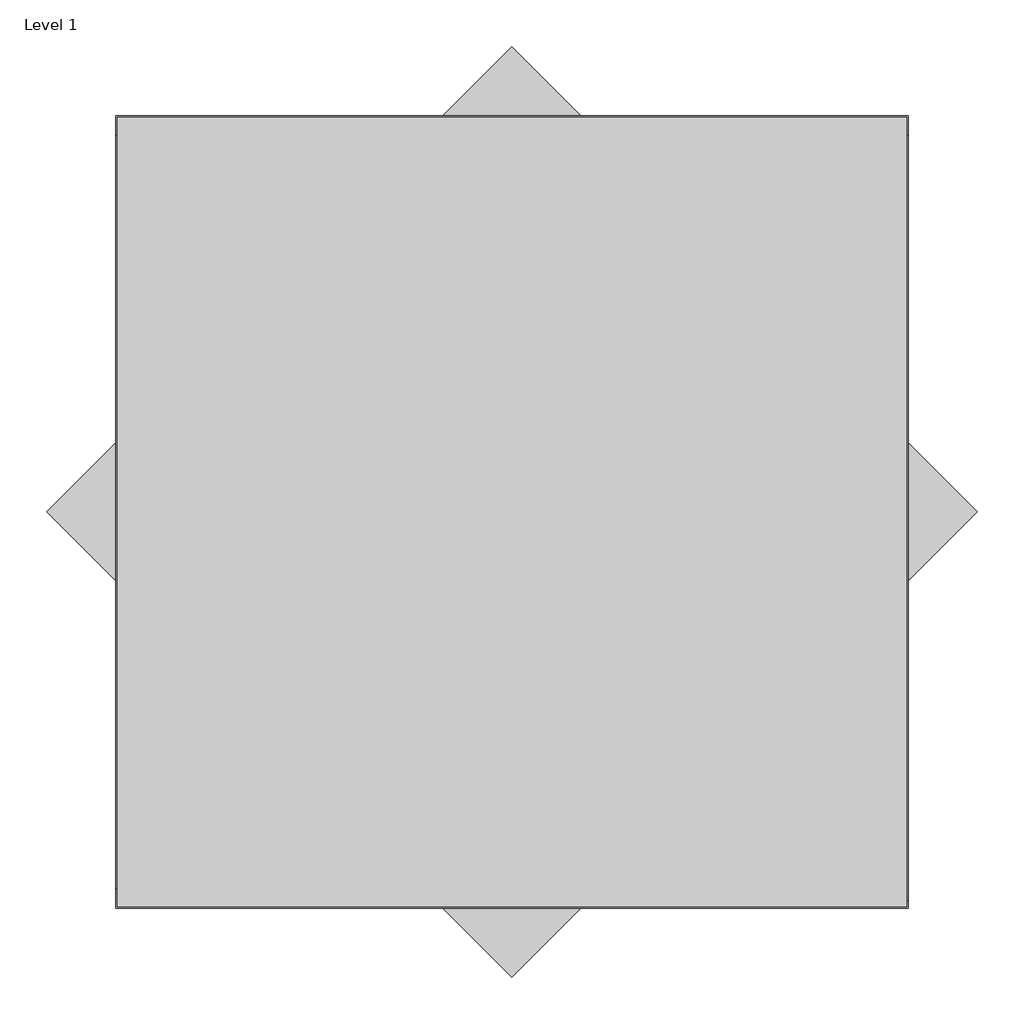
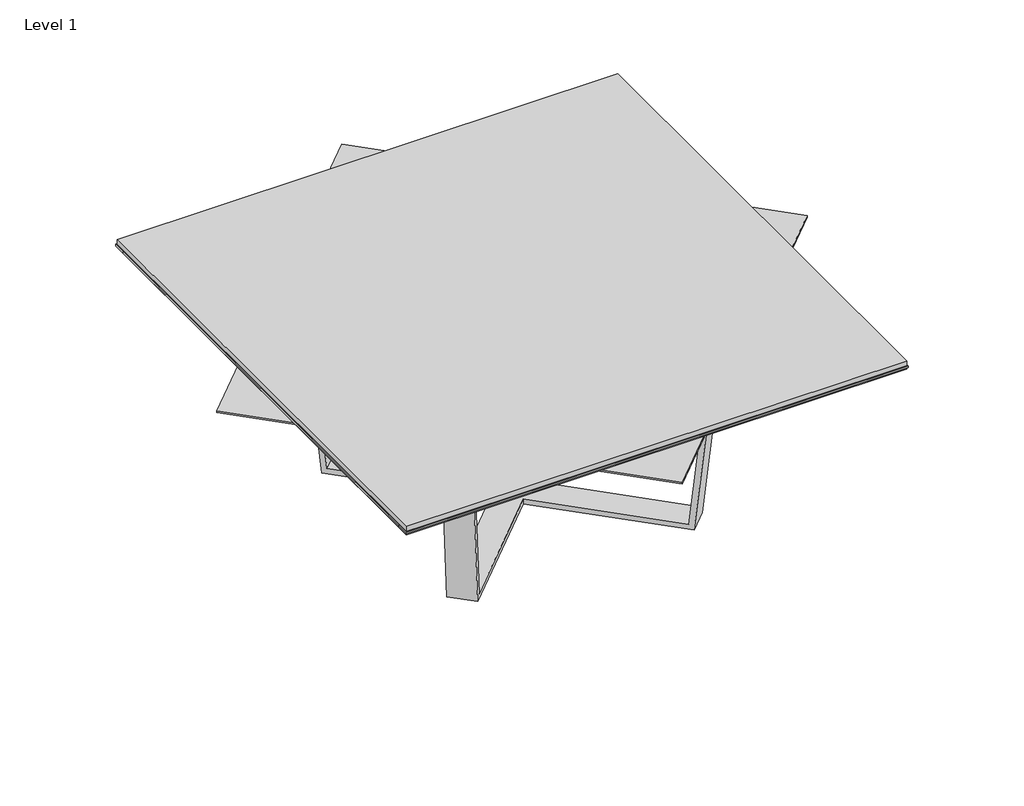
# One storey: 2 proxies.
"""IFC4 building model written with IfcOpenShell, lengths in millimetres."""

from ifc_helpers import new_model, si_unit, origin, place, context, project, spatial, transform, mapped, element, save
from components import generic_models_549d6e20, generic_models_61872e4f

model = new_model("IFC4")

# Units and contexts
model_context = context("Model", 3, world=origin())
ifc_project = project(units=[si_unit("LENGTHUNIT", "METRE", prefix="MILLI")], contexts=[model_context])

# Site, building, storey
site = spatial("IfcSite", under=ifc_project)
building = spatial("IfcBuilding", under=site)
storey = spatial("IfcBuildingStorey", under=building, Name="Level 1", Elevation=0.0)

# Proxies
placement = place(None, origin())
generic_models_shape = generic_models_549d6e20(model_context)
element("IfcBuildingElementProxy", 1, Name="IMPRESS^TABLE 8_72sq X BASE-TOP PARTS SOLID", ObjectType="IMPRESS^TABLE 8_72sq X BASE-TOP PARTS SOLID", at=placement, inside=storey, context=model_context, shape_type="MappedRepresentation", body=[
    mapped(generic_models_shape, transform((0.0, -1828.8, 38.1), x_axis=(1.0, 0.0, 0.0), y_axis=(0.0, 0.0, 1.0), z_axis=(0.0, -1.0, 0.0))),
])
generic_models_2_shape = generic_models_61872e4f(model_context)
element("IfcBuildingElementProxy", 2, Name="IMPRESS^TABLE 8_72sq X BASE-48 BASE SOLID", ObjectType="IMPRESS^TABLE 8_72sq X BASE-48 BASE SOLID", at=placement, inside=storey, context=model_context, shape_type="MappedRepresentation", body=[
    mapped(generic_models_2_shape, transform((1381.3733183, -519.2687307, -685.8), x_axis=(-0.7071067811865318, 0.7071067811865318, 0.0), y_axis=(1.5666308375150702e-12, 1.5666308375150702e-12, 1.0000000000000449), z_axis=(0.7071067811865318, 0.7071067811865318, -2.215550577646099e-12))),
])

save(model, "model.ifc")
